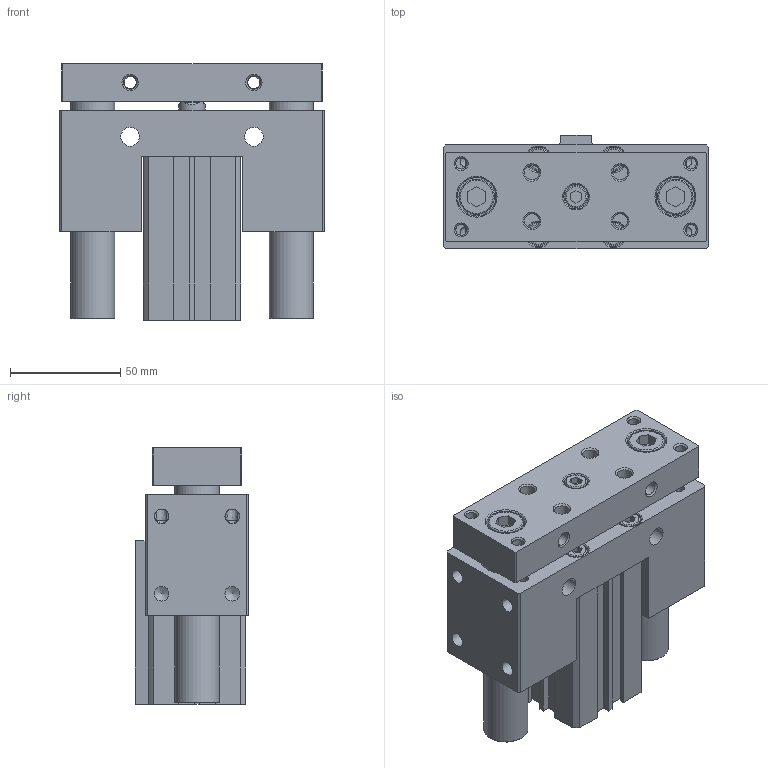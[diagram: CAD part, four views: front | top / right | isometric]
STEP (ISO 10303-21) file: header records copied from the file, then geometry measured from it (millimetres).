
FILE_DESCRIPTION((''),'2;1');
FILE_NAME('I:\3D電子目錄\氣缸\JCB\JCB\JCB32-S\JCB32x40-S.stp','2007-08-21T20:22:17',('Administrator'),(''),'Autodesk Inventor 11','Autodesk Inventor 11','');
FILE_SCHEMA(('AUTOMOTIVE_DESIGN { 1 0 10303 214 1 1 1 1 }'));
Length unit declared in the file: millimetre
Products named in the file (1): JCB32
Bounding box: 120 x 51.5 x 116 mm (x, y, z)
Volume: 438991.3 mm3; surface area: 105110.7 mm2
Topology: 3 solids, 3 shells, 320 faces, 754 edges, 489 vertices
Faces by surface type: plane 173, cylinder 53, bspline 45, cone 41, torus 8
Full cylindrical faces by diameter (mm): 2.2 x1, 5.1 x4, 6 x2, 6.647 x4, 8 x8, 10 x5, 11 x5, 12 x1, 13 x1, 16 x2, 17.5 x2, 20 x2, 22 x1, 23 x3, 34 x4, 36 x2
Entity records: 9272 total; most frequent: CARTESIAN_POINT 2540, DIRECTION 1340, ORIENTED_EDGE 1192, EDGE_CURVE 596, EDGE_LOOP 534, AXIS2_PLACEMENT_3D 492, VERTEX_POINT 458, VECTOR 356
